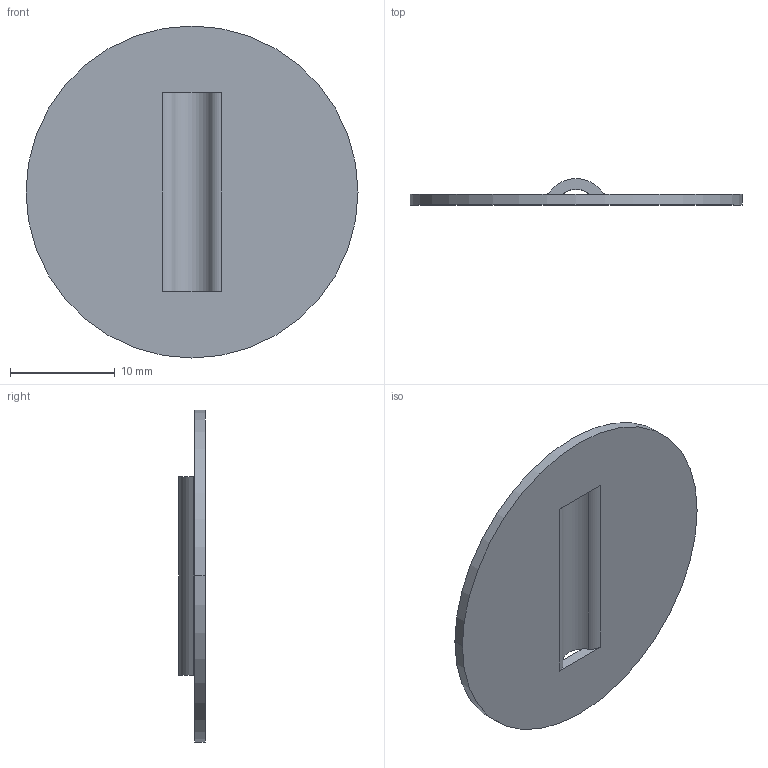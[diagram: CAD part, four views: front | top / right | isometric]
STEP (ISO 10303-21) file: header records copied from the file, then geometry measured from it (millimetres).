
FILE_DESCRIPTION (( 'STEP AP214' ), '1' );
FILE_NAME ('1211199-10.STEP', '2024-11-14T17:35:20', ( '' ), ( '' ), 'SwSTEP 2.0', 'SolidWorks 2024', '' );
FILE_SCHEMA (( 'AUTOMOTIVE_DESIGN' ));
Length unit declared in the file: inch
Products named in the file (1): 1211199-10
Bounding box: 31.75 x 2.51 x 31.75 mm (x, y, z)
Volume: 823.9 mm3; surface area: 1740.2 mm2
Topology: 1 solids, 1 shells, 14 faces, 38 edges, 24 vertices
Faces by surface type: cylinder 8, plane 6
Entity records: 485 total; most frequent: DIRECTION 88, CARTESIAN_POINT 77, ORIENTED_EDGE 76, EDGE_CURVE 38, AXIS2_PLACEMENT_3D 35, VERTEX_POINT 24, CIRCLE 20, VECTOR 18
